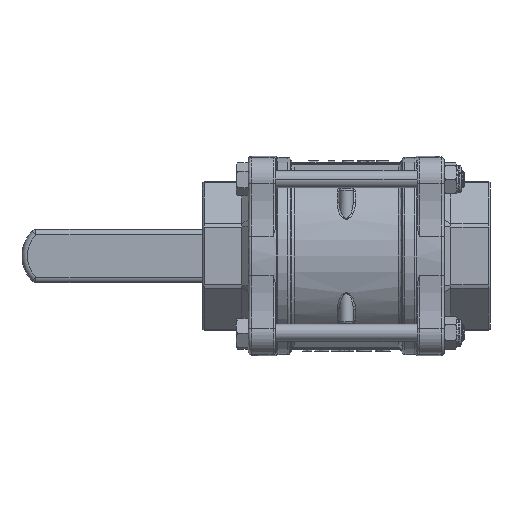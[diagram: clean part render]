
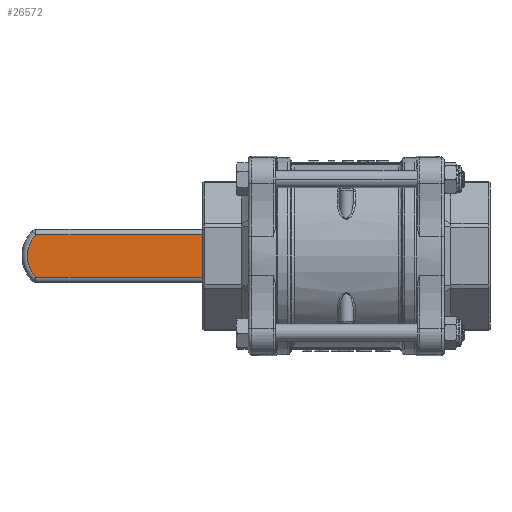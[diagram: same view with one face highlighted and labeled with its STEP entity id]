
A CAD part, front view. The second image highlights one B-rep face of the part: STEP entity #26572.
In plain terms, the highlighted planar face has unit normal (0, -1, 0).
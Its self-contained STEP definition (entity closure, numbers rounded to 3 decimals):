
#7592 = EDGE_LOOP ( 'NONE', ( #41163, #41164, #41165, #41166 ) ) ;
#26572 = ADVANCED_FACE ( 'NONE', ( #53737 ), #38709, .F. ) ;
#37193 = AXIS2_PLACEMENT_3D ( 'NONE', #38704, #38712, #38713 ) ;
#38704 = CARTESIAN_POINT ( 'NONE',  ( 95., -3., -9.75 ) ) ;
#38709 = PLANE ( 'NONE',  #37193 ) ;
#38712 = DIRECTION ( 'NONE',  ( 0., 1., 0. ) ) ;
#38713 = DIRECTION ( 'NONE',  ( 0., 0., 1. ) ) ;
#41163 = ORIENTED_EDGE ( 'NONE', *, *, #49377, .F. ) ;
#41164 = ORIENTED_EDGE ( 'NONE', *, *, #49378, .T. ) ;
#41165 = ORIENTED_EDGE ( 'NONE', *, *, #49375, .T. ) ;
#41166 = ORIENTED_EDGE ( 'NONE', *, *, #49353, .T. ) ;
#48428 = VERTEX_POINT ( 'NONE', #64965 ) ;
#48453 = VERTEX_POINT ( 'NONE', #64990 ) ;
#48455 = VERTEX_POINT ( 'NONE', #64992 ) ;
#48489 = VERTEX_POINT ( 'NONE', #65026 ) ;
#49353 = EDGE_CURVE ( 'NONE', #48489, #48455, #66576, .T. ) ;
#49375 = EDGE_CURVE ( 'NONE', #48453, #48489, #66652, .T. ) ;
#49377 = EDGE_CURVE ( 'NONE', #48428, #48455, #66661, .T. ) ;
#49378 = EDGE_CURVE ( 'NONE', #48428, #48453, #66663, .T. ) ;
#50984 = AXIS2_PLACEMENT_3D ( 'NONE', #69955, #69956, #69957 ) ;
#53737 = FACE_OUTER_BOUND ( 'NONE', #7592, .T. ) ;
#64965 = CARTESIAN_POINT ( 'NONE',  ( 88.547, -3., -9.75 ) ) ;
#64990 = CARTESIAN_POINT ( 'NONE',  ( 88.547, -3., 9.75 ) ) ;
#64992 = CARTESIAN_POINT ( 'NONE',  ( 0., -3., -9.75 ) ) ;
#65026 = CARTESIAN_POINT ( 'NONE',  ( 0., -3., 9.75 ) ) ;
#66576 = LINE ( 'NONE', #69889, #66583 ) ;
#66583 = VECTOR ( 'NONE', #69885, 1000. ) ;
#66652 = LINE ( 'NONE', #69946, #66659 ) ;
#66659 = VECTOR ( 'NONE', #69947, 1000. ) ;
#66661 = LINE ( 'NONE', #69939, #66665 ) ;
#66663 = CIRCLE ( 'NONE', #50984, 14. ) ;
#66665 = VECTOR ( 'NONE', #69940, 1000. ) ;
#69885 = DIRECTION ( 'NONE',  ( 0., 0., -1. ) ) ;
#69889 = CARTESIAN_POINT ( 'NONE',  ( 0., -3., -9.75 ) ) ;
#69939 = CARTESIAN_POINT ( 'NONE',  ( 95., -3., -9.75 ) ) ;
#69940 = DIRECTION ( 'NONE',  ( -1., 0., 0. ) ) ;
#69946 = CARTESIAN_POINT ( 'NONE',  ( 95., -3., 9.75 ) ) ;
#69947 = DIRECTION ( 'NONE',  ( -1., 0., 0. ) ) ;
#69955 = CARTESIAN_POINT ( 'NONE',  ( 78.5, -3., 0. ) ) ;
#69956 = DIRECTION ( 'NONE',  ( 0., -1., 0. ) ) ;
#69957 = DIRECTION ( 'NONE',  ( 0., 0., 1. ) ) ;
